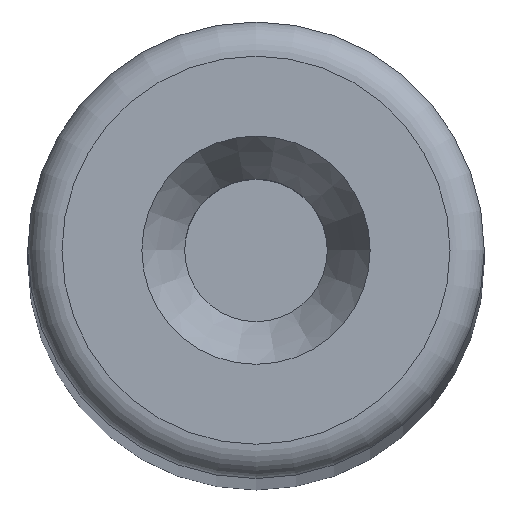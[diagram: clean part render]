
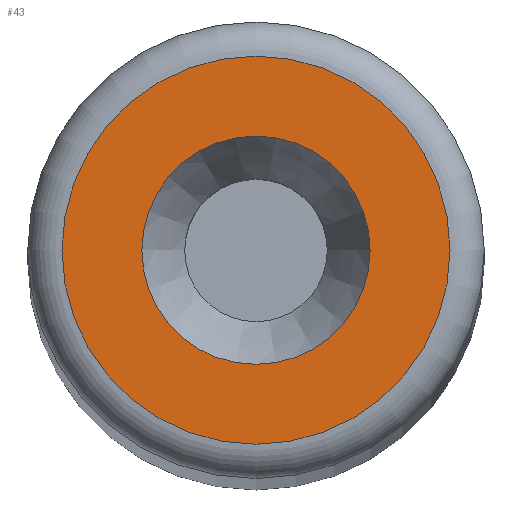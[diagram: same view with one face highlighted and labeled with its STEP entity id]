
A CAD part, top view. The second image highlights one B-rep face of the part: STEP entity #43.
In plain terms, the highlighted planar face has unit normal (0, 0, 1).
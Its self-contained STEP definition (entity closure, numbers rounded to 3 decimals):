
#43=ADVANCED_FACE('',(#58,#59),#54,.T.);
#54=PLANE('',#149);
#58=FACE_BOUND('',#76,.T.);
#59=FACE_BOUND('',#77,.T.);
#76=EDGE_LOOP('',(#96));
#77=EDGE_LOOP('',(#97));
#96=ORIENTED_EDGE('',*,*,#126,.T.);
#97=ORIENTED_EDGE('',*,*,#127,.F.);
#116=VERTEX_POINT('',#214);
#117=VERTEX_POINT('',#216);
#126=EDGE_CURVE('',#116,#116,#136,.T.);
#127=EDGE_CURVE('',#117,#117,#137,.T.);
#136=CIRCLE('',#147,1.7);
#137=CIRCLE('',#148,1.);
#147=AXIS2_PLACEMENT_3D('',#213,#170,#171);
#148=AXIS2_PLACEMENT_3D('',#215,#172,#173);
#149=AXIS2_PLACEMENT_3D('',#217,#174,#175);
#170=DIRECTION('',(0.,0.,1.));
#171=DIRECTION('',(1.,0.,0.));
#172=DIRECTION('',(0.,0.,1.));
#173=DIRECTION('',(1.,0.,0.));
#174=DIRECTION('',(0.,0.,1.));
#175=DIRECTION('',(1.,0.,0.));
#213=CARTESIAN_POINT('',(0.,0.,58.));
#214=CARTESIAN_POINT('',(1.7,0.,58.));
#215=CARTESIAN_POINT('',(0.,0.,58.));
#216=CARTESIAN_POINT('',(1.,0.,58.));
#217=CARTESIAN_POINT('',(0.,0.,58.));
